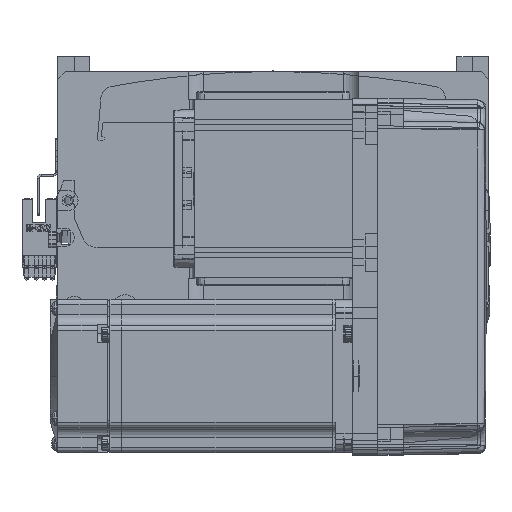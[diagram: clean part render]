
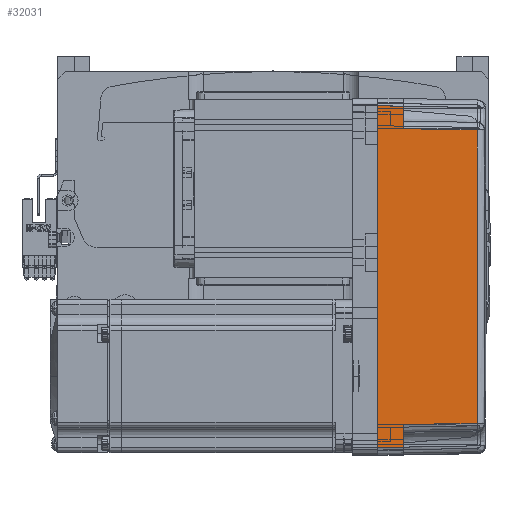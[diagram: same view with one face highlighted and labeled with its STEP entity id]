
A CAD part, top view. The second image highlights one B-rep face of the part: STEP entity #32031.
In plain terms, the highlighted planar face has unit normal (0.018, 0, 1) as drawn and (0, 1, 0.017) by its records, which use the part's own axes.
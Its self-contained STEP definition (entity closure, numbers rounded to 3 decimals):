
#199 = CARTESIAN_POINT ( 'NONE',  ( 57.495, 35.32, 38.985 ) ) ;
#790 = EDGE_CURVE ( 'NONE', #23794, #57739, #67876, .T. ) ;
#875 = DIRECTION ( 'NONE',  ( 0.017, 0.017, -1. ) ) ;
#1173 = DIRECTION ( 'NONE',  ( 1., 0., 0. ) ) ;
#3300 = ORIENTED_EDGE ( 'NONE', *, *, #790, .T. ) ;
#3749 = DIRECTION ( 'NONE',  ( 0.017, -0.017, 1. ) ) ;
#5884 = CARTESIAN_POINT ( 'NONE',  ( 67., 36., 0. ) ) ;
#6005 = CARTESIAN_POINT ( 'NONE',  ( 57.495, 35.32, 38.985 ) ) ;
#6171 = LINE ( 'NONE', #40653, #26474 ) ;
#7553 = LINE ( 'NONE', #199, #24447 ) ;
#8110 = VECTOR ( 'NONE', #1173, 1000. ) ;
#8171 = CARTESIAN_POINT ( 'NONE',  ( -66.826, 35.825, 10. ) ) ;
#10297 = CARTESIAN_POINT ( 'NONE',  ( 57.495, 35.32, 38.985 ) ) ;
#12139 = ORIENTED_EDGE ( 'NONE', *, *, #28214, .F. ) ;
#14598 = CARTESIAN_POINT ( 'NONE',  ( 66.826, 35.825, 10. ) ) ;
#17450 = ORIENTED_EDGE ( 'NONE', *, *, #41791, .T. ) ;
#19600 = CARTESIAN_POINT ( 'NONE',  ( -67., 36., 0. ) ) ;
#20520 = VECTOR ( 'NONE', #46834, 1000. ) ;
#21031 = CARTESIAN_POINT ( 'NONE',  ( 70., 35.825, 10. ) ) ;
#22363 = B_SPLINE_CURVE_WITH_KNOTS ( 'NONE', 3,
 ( #32241, #27519, #38338, #6005 ),
 .UNSPECIFIED., .F., .F.,
 ( 4, 4 ),
 ( 0., 1. ),
 .UNSPECIFIED. ) ;
#23794 = VERTEX_POINT ( 'NONE', #66318 ) ;
#24447 = VECTOR ( 'NONE', #875, 1000. ) ;
#24478 = EDGE_CURVE ( 'NONE', #61105, #36667, #36756, .T. ) ;
#26023 = CARTESIAN_POINT ( 'NONE',  ( -58., 35.825, 10. ) ) ;
#26474 = VECTOR ( 'NONE', #52290, 1000. ) ;
#26973 = CARTESIAN_POINT ( 'NONE',  ( 0., 36., 0. ) ) ;
#27519 = CARTESIAN_POINT ( 'NONE',  ( -19.165, 35.316, 39.181 ) ) ;
#27605 = VECTOR ( 'NONE', #59071, 1000. ) ;
#28145 = VERTEX_POINT ( 'NONE', #69444 ) ;
#28214 = EDGE_CURVE ( 'NONE', #62129, #62022, #45215, .T. ) ;
#28234 = CARTESIAN_POINT ( 'NONE',  ( -57.495, 35.32, 38.985 ) ) ;
#29433 = EDGE_CURVE ( 'NONE', #57739, #34133, #22363, .T. ) ;
#31927 = EDGE_CURVE ( 'NONE', #28145, #62022, #69110, .T. ) ;
#32031 = ADVANCED_FACE ( 'NONE', ( #34326 ), #54583, .T. ) ;
#32241 = CARTESIAN_POINT ( 'NONE',  ( -57.495, 35.32, 38.985 ) ) ;
#33006 = DIRECTION ( 'NONE',  ( 0., 1., 0.017 ) ) ;
#34133 = VERTEX_POINT ( 'NONE', #10297 ) ;
#34326 = FACE_OUTER_BOUND ( 'NONE', #64303, .T. ) ;
#34788 = AXIS2_PLACEMENT_3D ( 'NONE', #54815, #33006, #37715 ) ;
#36667 = VERTEX_POINT ( 'NONE', #8171 ) ;
#36756 = LINE ( 'NONE', #19600, #65624 ) ;
#37715 = DIRECTION ( 'NONE',  ( 0., -0.017, 1. ) ) ;
#38338 = CARTESIAN_POINT ( 'NONE',  ( 19.165, 35.316, 39.181 ) ) ;
#40653 = CARTESIAN_POINT ( 'NONE',  ( 70., 35.825, 10. ) ) ;
#41182 = ORIENTED_EDGE ( 'NONE', *, *, #52786, .T. ) ;
#41791 = EDGE_CURVE ( 'NONE', #36667, #23794, #6171, .T. ) ;
#42860 = LINE ( 'NONE', #26973, #8110 ) ;
#45215 = LINE ( 'NONE', #52392, #46919 ) ;
#46834 = DIRECTION ( 'NONE',  ( 0.017, -0.017, 1. ) ) ;
#46842 = ORIENTED_EDGE ( 'NONE', *, *, #24478, .T. ) ;
#46919 = VECTOR ( 'NONE', #57575, 1000. ) ;
#51747 = ORIENTED_EDGE ( 'NONE', *, *, #53935, .F. ) ;
#52290 = DIRECTION ( 'NONE',  ( 1., 0., 0. ) ) ;
#52392 = CARTESIAN_POINT ( 'NONE',  ( 67.001, 36.001, -0.052 ) ) ;
#52786 = EDGE_CURVE ( 'NONE', #34133, #28145, #7553, .T. ) ;
#53906 = ORIENTED_EDGE ( 'NONE', *, *, #29433, .T. ) ;
#53935 = EDGE_CURVE ( 'NONE', #61105, #62129, #42860, .T. ) ;
#54583 = PLANE ( 'NONE',  #34788 ) ;
#54815 = CARTESIAN_POINT ( 'NONE',  ( 70., 36., 0. ) ) ;
#57575 = DIRECTION ( 'NONE',  ( -0.017, -0.017, 1. ) ) ;
#57739 = VERTEX_POINT ( 'NONE', #28234 ) ;
#59071 = DIRECTION ( 'NONE',  ( 1., 0., 0. ) ) ;
#61105 = VERTEX_POINT ( 'NONE', #62600 ) ;
#62022 = VERTEX_POINT ( 'NONE', #14598 ) ;
#62129 = VERTEX_POINT ( 'NONE', #5884 ) ;
#62600 = CARTESIAN_POINT ( 'NONE',  ( -67., 36., 0. ) ) ;
#64185 = ORIENTED_EDGE ( 'NONE', *, *, #31927, .T. ) ;
#64303 = EDGE_LOOP ( 'NONE', ( #46842, #17450, #3300, #53906, #41182, #64185, #12139, #51747 ) ) ;
#65624 = VECTOR ( 'NONE', #3749, 1000. ) ;
#66318 = CARTESIAN_POINT ( 'NONE',  ( -58., 35.825, 10. ) ) ;
#67876 = LINE ( 'NONE', #26023, #20520 ) ;
#69110 = LINE ( 'NONE', #21031, #27605 ) ;
#69444 = CARTESIAN_POINT ( 'NONE',  ( 58., 35.825, 10. ) ) ;
